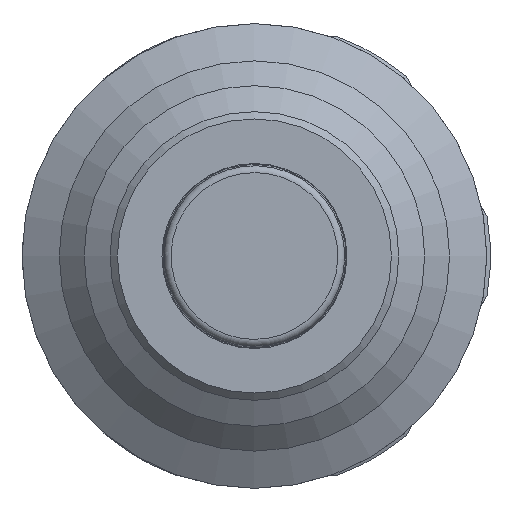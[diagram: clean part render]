
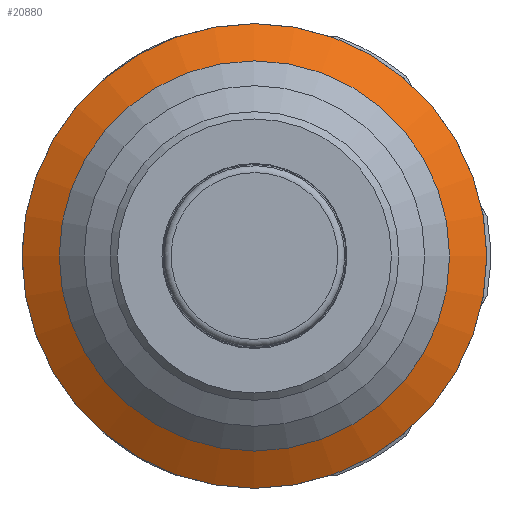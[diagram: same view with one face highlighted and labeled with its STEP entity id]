
A CAD part, front view. The second image highlights one B-rep face of the part: STEP entity #20880.
In plain terms, the highlighted conical face has half-angle 60 degrees and reference radius 14.623 mm.
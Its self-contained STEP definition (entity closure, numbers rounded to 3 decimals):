
#781=CONICAL_SURFACE('',#21894,14.623,1.047);
#3080=FACE_OUTER_BOUND('',#4228,.T.);
#4228=EDGE_LOOP('',(#15996,#15997,#15998,#15999,#16000));
#5441=LINE('',#37187,#6655);
#6655=VECTOR('',#23552,14.623);
#7522=CIRCLE('',#21889,13.35);
#7523=CIRCLE('',#21890,13.35);
#7525=CIRCLE('',#21893,15.896);
#9069=VERTEX_POINT('',#37176);
#9070=VERTEX_POINT('',#37178);
#9072=VERTEX_POINT('',#37184);
#11586=EDGE_CURVE('',#9070,#9069,#7522,.T.);
#11587=EDGE_CURVE('',#9069,#9070,#7523,.T.);
#11589=EDGE_CURVE('',#9072,#9072,#7525,.T.);
#11590=EDGE_CURVE('',#9070,#9072,#5441,.T.);
#15996=ORIENTED_EDGE('',*,*,#11586,.T.);
#15997=ORIENTED_EDGE('',*,*,#11587,.T.);
#15998=ORIENTED_EDGE('',*,*,#11590,.T.);
#15999=ORIENTED_EDGE('',*,*,#11589,.T.);
#16000=ORIENTED_EDGE('',*,*,#11590,.F.);
#20880=ADVANCED_FACE('',(#3080),#781,.T.);
#21889=AXIS2_PLACEMENT_3D('',#37179,#23540,#23541);
#21890=AXIS2_PLACEMENT_3D('',#37180,#23542,#23543);
#21893=AXIS2_PLACEMENT_3D('',#37185,#23548,#23549);
#21894=AXIS2_PLACEMENT_3D('',#37186,#23550,#23551);
#23540=DIRECTION('center_axis',(0.,1.,0.));
#23541=DIRECTION('ref_axis',(-1.,0.,0.));
#23542=DIRECTION('center_axis',(0.,1.,0.));
#23543=DIRECTION('ref_axis',(-1.,0.,0.));
#23548=DIRECTION('center_axis',(0.,-1.,0.));
#23549=DIRECTION('ref_axis',(-1.,0.,0.));
#23550=DIRECTION('center_axis',(0.,1.,0.));
#23551=DIRECTION('ref_axis',(-1.,0.,0.));
#23552=DIRECTION('',(0.866,0.5,0.));
#37176=CARTESIAN_POINT('',(-13.35,12.785,0.));
#37178=CARTESIAN_POINT('',(13.35,12.785,0.));
#37179=CARTESIAN_POINT('Origin',(0.,12.785,0.));
#37180=CARTESIAN_POINT('Origin',(0.,12.785,0.));
#37184=CARTESIAN_POINT('',(15.896,14.255,0.));
#37185=CARTESIAN_POINT('Origin',(0.,14.255,0.));
#37186=CARTESIAN_POINT('Origin',(0.,13.52,0.));
#37187=CARTESIAN_POINT('',(14.623,13.52,0.));
